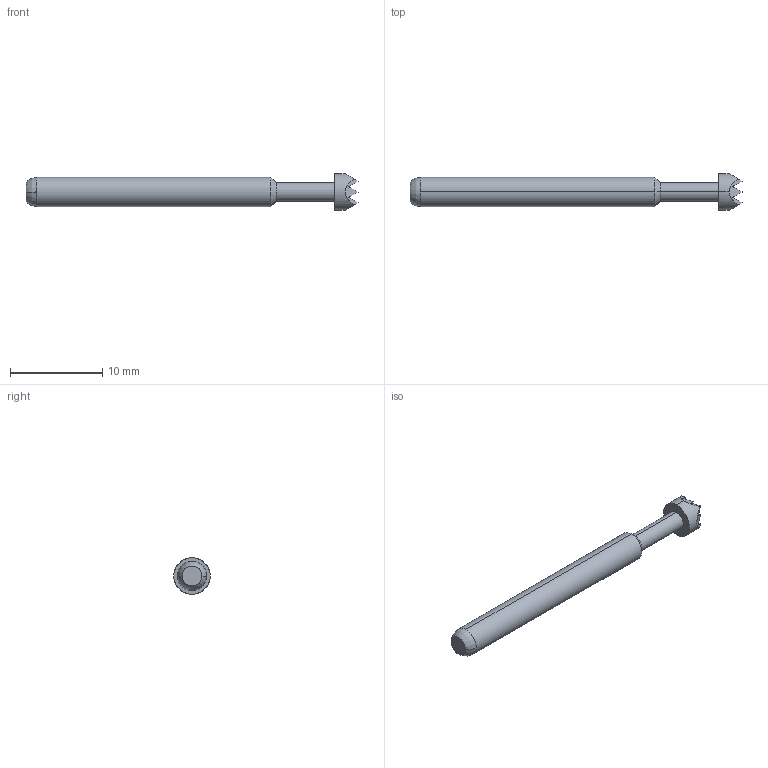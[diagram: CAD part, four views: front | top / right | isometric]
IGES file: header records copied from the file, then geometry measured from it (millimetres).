
Start section: SolidWorks IGES file using analytic representation for surfaces
Global section: file name: Z:\probe solid model mockups\Solidworks models\IGES Files\EPA-5 IGES files\EPA-5H.IGS; native system: SolidWorks 2006 by SolidWorks Corporation; preprocessor: SolidWorks 2006 by SolidWorks Corporation; author: tsakatani; date: 080103.110731; units: inch
Bounding box: 36.07 x 3.96 x 3.96 mm (x, y, z)
Surface area: 368.4 mm2 (no closed solid volume)
Topology: 0 solids, 0 shells, 40 faces, 298 edges, 298 vertices
Faces by surface type: bspline 30, revolution 10
